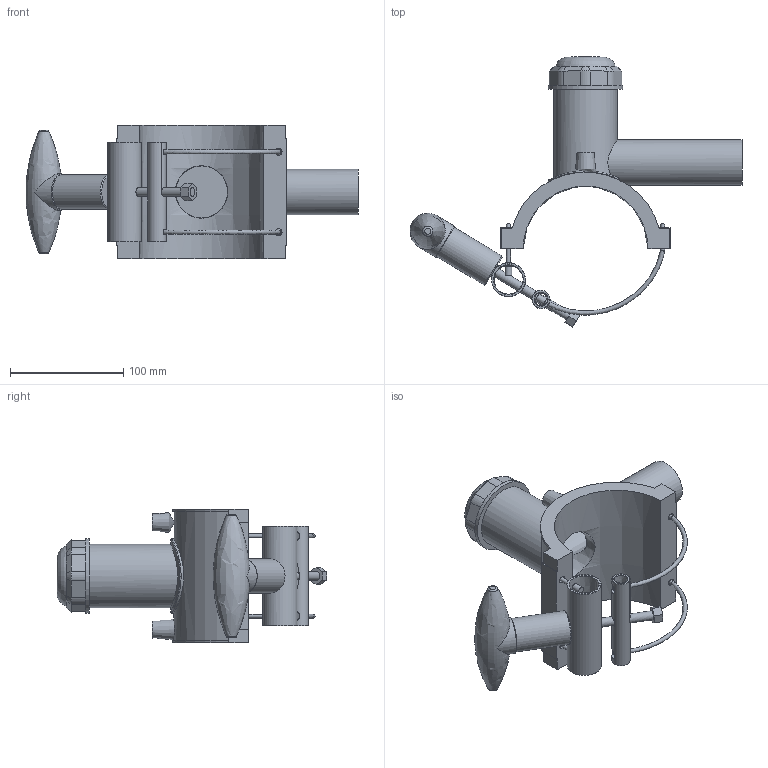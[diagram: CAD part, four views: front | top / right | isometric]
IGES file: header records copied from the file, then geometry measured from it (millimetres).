
Global section: file name: 4963Q4110040.ipt; native system: Autodesk Inventor 2019; preprocessor: unknown; author: KIM; date: 20210307.125207; units: millimetre
Bounding box: 292.86 x 238.16 x 118 mm (x, y, z)
Volume: 582756.5 mm3; surface area: 165533.1 mm2
Topology: 6 solids, 7 shells, 180 faces, 457 edges, 299 vertices
Faces by surface type: plane 87, cylinder 36, revolution 33, cone 15, bspline 9
Full cylindrical faces by diameter (mm): 3.6 x6, 4 x2, 6 x4, 8 x1, 16 x1, 30 x2, 32 x1, 40 x1, 56.1 x1, 66 x1
